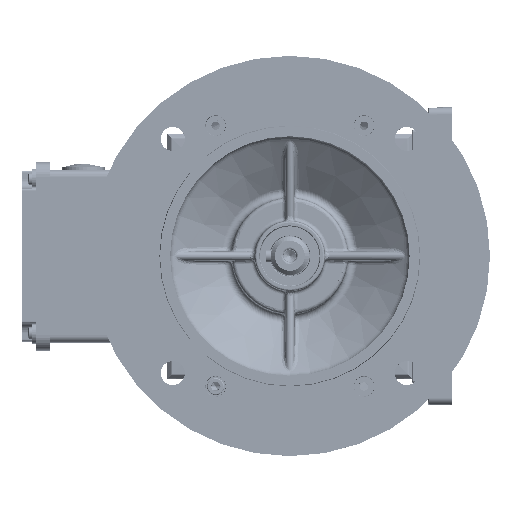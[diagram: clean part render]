
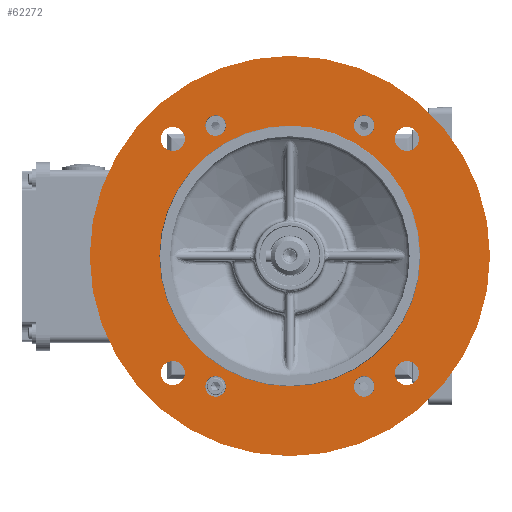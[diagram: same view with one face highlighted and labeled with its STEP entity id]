
A CAD part, top view. The second image highlights one B-rep face of the part: STEP entity #62272.
In plain terms, the highlighted planar face has unit normal (0, 0, 1).
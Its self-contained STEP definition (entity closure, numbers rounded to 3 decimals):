
#62272=ADVANCED_FACE('',(#70926,#70927,#70928,#70929,#70930,#70931,#70932,
#70933,#70934,#70935),#67567,.T.);
#67567=PLANE('',#220557);
#70926=FACE_BOUND('',#78806,.T.);
#70927=FACE_BOUND('',#78807,.T.);
#70928=FACE_BOUND('',#78808,.T.);
#70929=FACE_BOUND('',#78809,.T.);
#70930=FACE_BOUND('',#78810,.T.);
#70931=FACE_BOUND('',#78811,.T.);
#70932=FACE_BOUND('',#78812,.T.);
#70933=FACE_BOUND('',#78813,.T.);
#70934=FACE_BOUND('',#78814,.T.);
#70935=FACE_BOUND('',#78815,.T.);
#78806=EDGE_LOOP('',(#112060));
#78807=EDGE_LOOP('',(#112061));
#78808=EDGE_LOOP('',(#112062));
#78809=EDGE_LOOP('',(#112063));
#78810=EDGE_LOOP('',(#112064));
#78811=EDGE_LOOP('',(#112065));
#78812=EDGE_LOOP('',(#112066));
#78813=EDGE_LOOP('',(#112067));
#78814=EDGE_LOOP('',(#112068));
#78815=EDGE_LOOP('',(#112069));
#112060=ORIENTED_EDGE('',*,*,#162209,.T.);
#112061=ORIENTED_EDGE('',*,*,#162210,.T.);
#112062=ORIENTED_EDGE('',*,*,#162211,.T.);
#112063=ORIENTED_EDGE('',*,*,#162212,.T.);
#112064=ORIENTED_EDGE('',*,*,#162213,.T.);
#112065=ORIENTED_EDGE('',*,*,#162214,.T.);
#112066=ORIENTED_EDGE('',*,*,#162215,.T.);
#112067=ORIENTED_EDGE('',*,*,#162216,.T.);
#112068=ORIENTED_EDGE('',*,*,#162208,.T.);
#112069=ORIENTED_EDGE('',*,*,#160867,.T.);
#140576=VERTEX_POINT('',#355098);
#141332=VERTEX_POINT('',#371420);
#141333=VERTEX_POINT('',#371423);
#141334=VERTEX_POINT('',#371425);
#141335=VERTEX_POINT('',#371427);
#141336=VERTEX_POINT('',#371429);
#141337=VERTEX_POINT('',#371431);
#141338=VERTEX_POINT('',#371433);
#141339=VERTEX_POINT('',#371435);
#141340=VERTEX_POINT('',#371437);
#160867=EDGE_CURVE('',#140576,#140576,#183239,.T.);
#162208=EDGE_CURVE('',#141332,#141332,#183741,.T.);
#162209=EDGE_CURVE('',#141333,#141333,#183742,.T.);
#162210=EDGE_CURVE('',#141334,#141334,#183743,.T.);
#162211=EDGE_CURVE('',#141335,#141335,#183744,.T.);
#162212=EDGE_CURVE('',#141336,#141336,#183745,.T.);
#162213=EDGE_CURVE('',#141337,#141337,#183746,.T.);
#162214=EDGE_CURVE('',#141338,#141338,#183747,.T.);
#162215=EDGE_CURVE('',#141339,#141339,#183748,.T.);
#162216=EDGE_CURVE('',#141340,#141340,#183749,.T.);
#183239=CIRCLE('',#219734,65.);
#183741=CIRCLE('',#220547,99.75);
#183742=CIRCLE('',#220549,5.134);
#183743=CIRCLE('',#220550,5.134);
#183744=CIRCLE('',#220551,5.134);
#183745=CIRCLE('',#220552,5.134);
#183746=CIRCLE('',#220553,6.);
#183747=CIRCLE('',#220554,6.);
#183748=CIRCLE('',#220555,6.);
#183749=CIRCLE('',#220556,6.);
#219734=AXIS2_PLACEMENT_3D('',#355097,#250887,#250888);
#220547=AXIS2_PLACEMENT_3D('',#371419,#252693,#252694);
#220549=AXIS2_PLACEMENT_3D('',#371422,#252697,#252698);
#220550=AXIS2_PLACEMENT_3D('',#371424,#252699,#252700);
#220551=AXIS2_PLACEMENT_3D('',#371426,#252701,#252702);
#220552=AXIS2_PLACEMENT_3D('',#371428,#252703,#252704);
#220553=AXIS2_PLACEMENT_3D('',#371430,#252705,#252706);
#220554=AXIS2_PLACEMENT_3D('',#371432,#252707,#252708);
#220555=AXIS2_PLACEMENT_3D('',#371434,#252709,#252710);
#220556=AXIS2_PLACEMENT_3D('',#371436,#252711,#252712);
#220557=AXIS2_PLACEMENT_3D('',#371438,#252713,#252714);
#250887=DIRECTION('',(0.,0.,-1.));
#250888=DIRECTION('',(1.,0.,0.));
#252693=DIRECTION('',(0.,0.,1.));
#252694=DIRECTION('',(1.,0.,0.));
#252697=DIRECTION('',(0.,0.,-1.));
#252698=DIRECTION('',(1.,0.,0.));
#252699=DIRECTION('',(0.,0.,-1.));
#252700=DIRECTION('',(1.,0.,0.));
#252701=DIRECTION('',(0.,0.,-1.));
#252702=DIRECTION('',(1.,0.,0.));
#252703=DIRECTION('',(0.,0.,-1.));
#252704=DIRECTION('',(1.,0.,0.));
#252705=DIRECTION('',(0.,0.,-1.));
#252706=DIRECTION('',(-1.,0.,0.));
#252707=DIRECTION('',(0.,0.,-1.));
#252708=DIRECTION('',(-1.,0.,0.));
#252709=DIRECTION('',(0.,0.,-1.));
#252710=DIRECTION('',(-1.,0.,0.));
#252711=DIRECTION('',(0.,0.,-1.));
#252712=DIRECTION('',(-1.,0.,0.));
#252713=DIRECTION('',(0.,0.,1.));
#252714=DIRECTION('',(1.,0.,0.));
#355097=CARTESIAN_POINT('',(0.,0.,69.5));
#355098=CARTESIAN_POINT('',(65.,0.,69.5));
#371419=CARTESIAN_POINT('',(0.,0.,69.5));
#371420=CARTESIAN_POINT('',(99.75,0.,69.5));
#371422=CARTESIAN_POINT('',(-37.,-65.,69.5));
#371423=CARTESIAN_POINT('',(-31.866,-65.,69.5));
#371424=CARTESIAN_POINT('',(37.,-65.,69.5));
#371425=CARTESIAN_POINT('',(42.134,-65.,69.5));
#371426=CARTESIAN_POINT('',(37.,65.,69.5));
#371427=CARTESIAN_POINT('',(42.134,65.,69.5));
#371428=CARTESIAN_POINT('',(-37.,65.,69.5));
#371429=CARTESIAN_POINT('',(-31.866,65.,69.5));
#371430=CARTESIAN_POINT('',(-58.336,-58.336,69.5));
#371431=CARTESIAN_POINT('',(-64.336,-58.336,69.5));
#371432=CARTESIAN_POINT('',(58.336,-58.336,69.5));
#371433=CARTESIAN_POINT('',(52.336,-58.336,69.5));
#371434=CARTESIAN_POINT('',(58.336,58.336,69.5));
#371435=CARTESIAN_POINT('',(52.336,58.336,69.5));
#371436=CARTESIAN_POINT('',(-58.336,58.336,69.5));
#371437=CARTESIAN_POINT('',(-64.336,58.336,69.5));
#371438=CARTESIAN_POINT('',(0.,0.,69.5));
